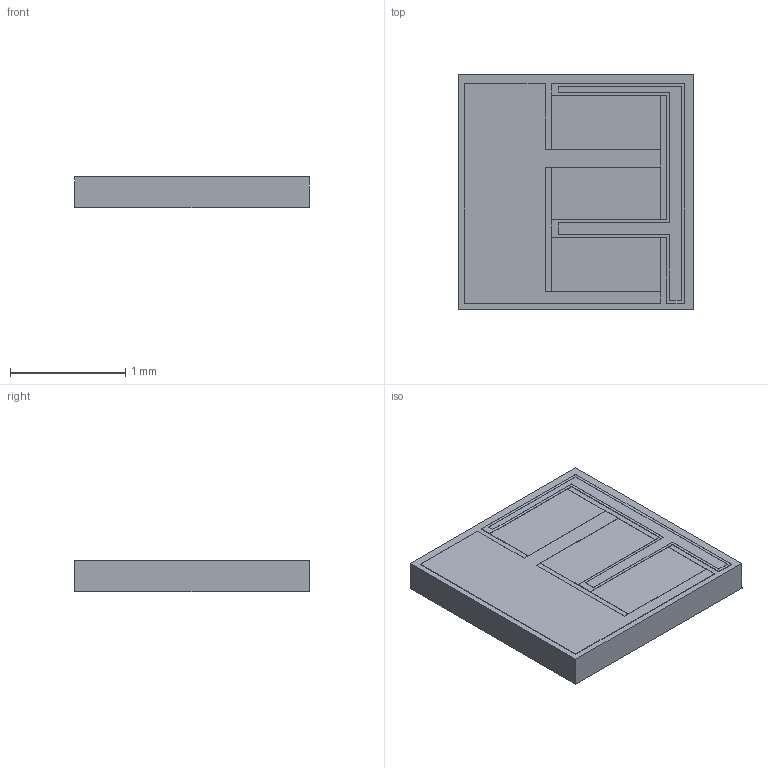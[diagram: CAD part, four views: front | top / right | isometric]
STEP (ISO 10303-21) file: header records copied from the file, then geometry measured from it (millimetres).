
FILE_DESCRIPTION(/* description */ (''),/* implementation_level */ '2;1');
FILE_NAME(/* name */ 'C:\Users\jlima\Desktop\96-0805\96-0805-01A-02A-03A 01-12-16\3D-96-0805\3D-96-0805.stp',/* time_stamp */ '2019-07-19T10:55:27-04:00',/* author */ ('JLima'),/* organization */ (''),/* preprocessor_version */ 'ST-DEVELOPER v17',/* originating_system */ 'Autodesk Inventor 2019',/* authorisation */ '');
FILE_SCHEMA (('AUTOMOTIVE_DESIGN { 1 0 10303 214 3 1 1 }'));
Length unit declared in the file: inch
Products named in the file (1): 3D-96-0805
Bounding box: 2.04 x 2.03 x 0.27 mm (x, y, z)
Volume: 1.1 mm3; surface area: 10.5 mm2
Topology: 1 solids, 1 shells, 46 faces, 126 edges, 84 vertices
Faces by surface type: plane 46
Entity records: 1531 total; most frequent: CARTESIAN_POINT 257, ORIENTED_EDGE 252, DIRECTION 220, LINE 126, VECTOR 126, EDGE_CURVE 126, VERTEX_POINT 84, EDGE_LOOP 48
